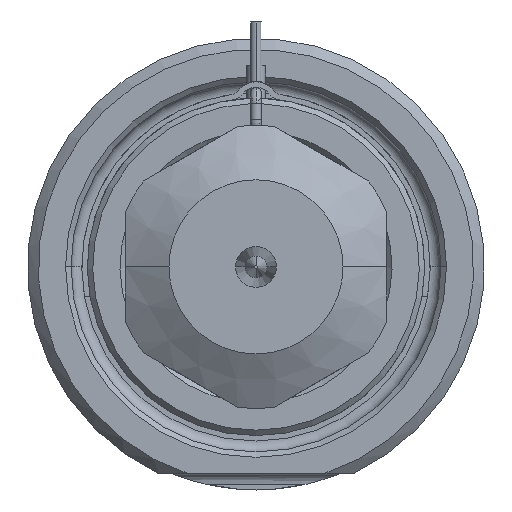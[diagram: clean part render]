
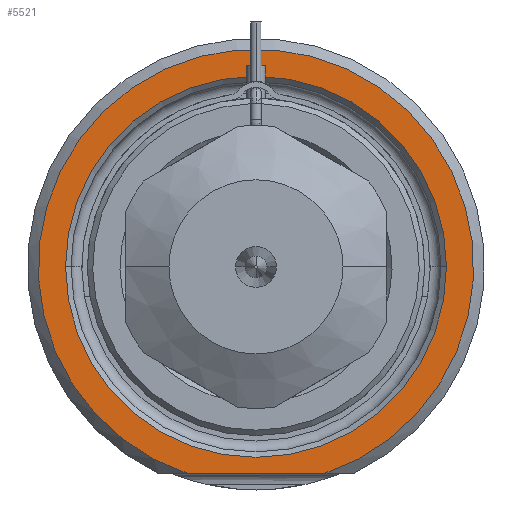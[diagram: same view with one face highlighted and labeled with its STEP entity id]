
A CAD part, front view. The second image highlights one B-rep face of the part: STEP entity #5521.
In plain terms, the highlighted planar face has unit normal (0, -1, 0).
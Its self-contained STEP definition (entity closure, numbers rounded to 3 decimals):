
#1407=DIRECTION('',(1.,0.,0.));
#1408=VECTOR('',#1407,12.49);
#1409=CARTESIAN_POINT('',(-6.245,0.,-19.));
#1410=LINE('',#1409,#1408);
#1411=CARTESIAN_POINT('',(0.,0.,0.));
#1412=DIRECTION('',(0.,1.,0.));
#1413=DIRECTION('',(-1.,0.,0.));
#1414=AXIS2_PLACEMENT_3D('',#1411,#1412,#1413);
#1416=CARTESIAN_POINT('',(0.,0.,0.));
#1417=DIRECTION('',(0.,1.,0.));
#1418=DIRECTION('',(1.,0.,0.));
#1419=AXIS2_PLACEMENT_3D('',#1416,#1417,#1418);
#1525=CARTESIAN_POINT('',(0.,0.,0.));
#1526=DIRECTION('',(0.,-1.,0.));
#1527=DIRECTION('',(0.312,0.,-0.95));
#1528=AXIS2_PLACEMENT_3D('',#1525,#1526,#1527);
#3431=CARTESIAN_POINT('',(-17.5,0.,0.));
#3432=CARTESIAN_POINT('',(17.5,0.,0.));
#3433=VERTEX_POINT('',#3431);
#3434=VERTEX_POINT('',#3432);
#3489=CARTESIAN_POINT('',(-6.245,0.,-19.));
#3490=CARTESIAN_POINT('',(6.245,0.,-19.));
#3491=VERTEX_POINT('',#3489);
#3492=VERTEX_POINT('',#3490);
#5505=CARTESIAN_POINT('',(0.,0.,0.));
#5506=DIRECTION('',(0.,-1.,0.));
#5507=DIRECTION('',(1.,0.,0.));
#5508=AXIS2_PLACEMENT_3D('',#5505,#5506,#5507);
#5509=PLANE('',#5508);
#5511=ORIENTED_EDGE('',*,*,#5510,.F.);
#5513=ORIENTED_EDGE('',*,*,#5512,.F.);
#5514=EDGE_LOOP('',(#5511,#5513));
#5515=FACE_OUTER_BOUND('',#5514,.F.);
#5516=ORIENTED_EDGE('',*,*,#5495,.F.);
#5518=ORIENTED_EDGE('',*,*,#5517,.F.);
#5519=EDGE_LOOP('',(#5516,#5518));
#5520=FACE_BOUND('',#5519,.F.);
#5521=ADVANCED_FACE('',(#5515,#5520),#5509,.T.);
#1415=CIRCLE('',#1414,17.5);
#1420=CIRCLE('',#1419,17.5);
#1529=CIRCLE('',#1528,20.);
#5495=EDGE_CURVE('',#3433,#3434,#1415,.T.);
#5510=EDGE_CURVE('',#3491,#3492,#1410,.T.);
#5512=EDGE_CURVE('',#3492,#3491,#1529,.T.);
#5517=EDGE_CURVE('',#3434,#3433,#1420,.T.);
